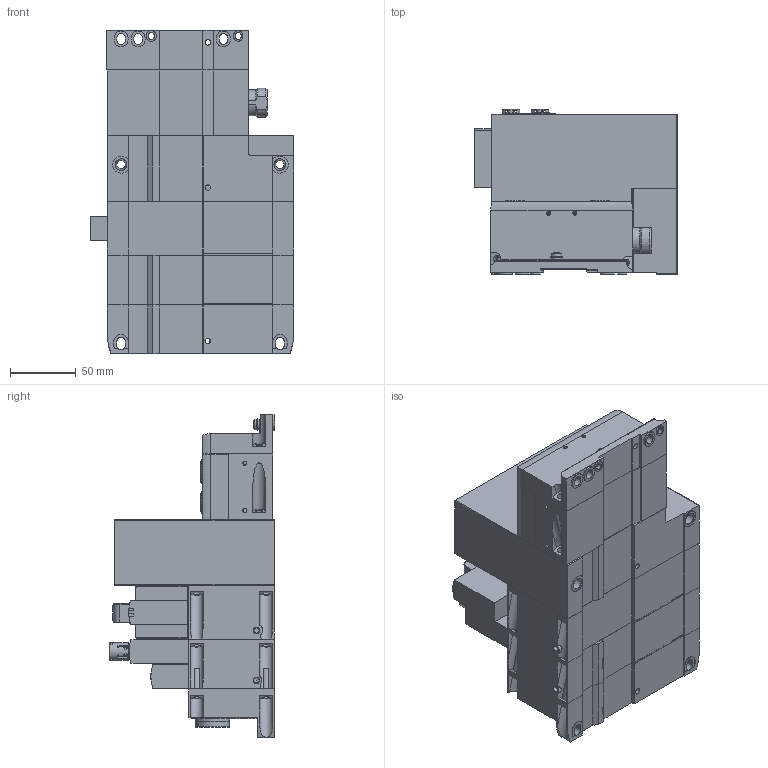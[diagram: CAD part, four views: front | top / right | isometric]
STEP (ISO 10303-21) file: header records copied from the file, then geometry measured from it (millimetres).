
FILE_DESCRIPTION( ( 'STEP AP214' ), '1' );
FILE_NAME( 'p:/temp/worker_1078/temp/exporttempdir_3548_173_4NN7F/format_0/Configuration01_8073100_51E-F33GCQP-RC.stp', '2020-07-23T15:25:07', ( 'License CC BY-ND 4.0' ), ( 'CADENAS' ), ' ', 'PARTsolutions', ' ' );
FILE_SCHEMA( ( 'AUTOMOTIVE_DESIGN { 1 0 10303 214 1 1 1 1 }' ) );
Length unit declared in the file: millimetre
Products named in the file (15): 8073100 51E-F33GCQP-RC 46P-B-NSAB-PSPMNGWZQZA-JL; HI_8068240 VABA-S6-1-X2-F1-CB---(EPL); HI_8068610 VABV-S6-1Q-G38-CB-T5---(VKPL_0); _8067407 VABF-S6-1-P5A4S1YE-G12-1T5-PA---(high); _174308 B-M5-B---(VCB); _8067932 VABV-S4-2HS-G18-CB-2T2---(VKPL_0); HI_8033450 VSVA-B-B52-ZTR-A2-1T1L---(VT462); _4105147 VAMC-B-S6-CTR---(vtsa_kappe); HI_539213 VABB-S4-2-WT---(VT465); HI_539234 VABE-S6-1R-G12---(PL); _3571 B-1/2---(VCBE); HI_550212 CPX-M-EPL-EV---(EPL_51E); HI_550208 CPX-M-GE-EV-S-7/8-5POL---(EV); HI_548755 CPX-FB33---(EA); HI_548757 CPX-AK-P---(g_2_1)
Assembly tree (15 placements, depth 2):
  8073100 51E-F33GCQP-RC 46P-B-NSAB-PSPMNGWZQZA-JL
    HI_8068240 VABA-S6-1-X2-F1-CB---(EPL)
    HI_8068610 VABV-S6-1Q-G38-CB-T5---(VKPL_0)
    _8067407 VABF-S6-1-P5A4S1YE-G12-1T5-PA---(high)
    _174308 B-M5-B---(VCB)
    _8067932 VABV-S4-2HS-G18-CB-2T2---(VKPL_0)
    HI_8033450 VSVA-B-B52-ZTR-A2-1T1L---(VT462)
    _4105147 VAMC-B-S6-CTR---(vtsa_kappe)  x2
    HI_539213 VABB-S4-2-WT---(VT465)
    HI_539234 VABE-S6-1R-G12---(PL)
    _3571 B-1/2---(VCBE)
    HI_550212 CPX-M-EPL-EV---(EPL_51E)
    HI_550208 CPX-M-GE-EV-S-7/8-5POL---(EV)
    HI_548755 CPX-FB33---(EA)
    HI_548757 CPX-AK-P---(g_2_1)
Bounding box: 154.9 x 126.04 x 246.8 mm (x, y, z)
Volume: 2239814.1 mm3; surface area: 341402.9 mm2
Topology: 15 solids, 15 shells, 1877 faces, 4703 edges, 3055 vertices
Faces by surface type: plane 1008, cylinder 651, cone 173, torus 35, bspline 7, sphere 3
Full cylindrical faces by diameter (mm): 1.1 x12, 2 x5, 2.3 x2, 2.459 x4, 2.8 x2, 3 x2, 3.2 x2, 3.242 x4, 3.3 x11, 4 x5, 4.134 x21, 4.3 x1, 4.5 x1, 5 x25, 5.2 x8, 5.5 x8, 5.6 x2, 5.8 x2, 6 x9, 6.4 x3, 6.5 x8, 6.6 x3, 7.2 x2, 7.5 x4, 7.6 x2, 8 x7, 8.2 x1, 8.3 x1, 8.5 x4, 8.566 x4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
Entity records: 65927 total; most frequent: CARTESIAN_POINT 9859, DIRECTION 8929, ORIENTED_EDGE 7880, EDGE_CURVE 3940, AXIS2_PLACEMENT_3D 3325, VERTEX_POINT 2803, EDGE_LOOP 2462, LINE 2279
